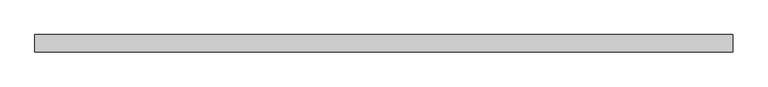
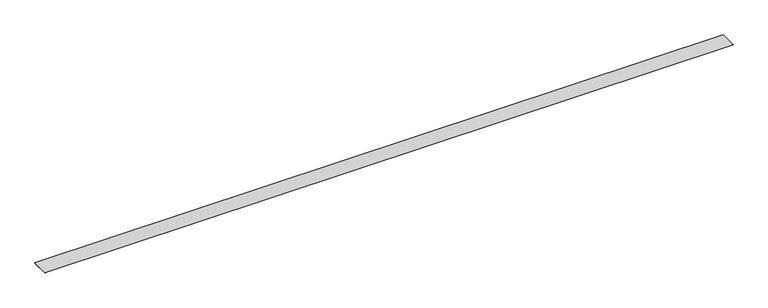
"""IFC4 building model written with IfcOpenShell, lengths in millimetres: proxy geometry, Sika® CarboDur® M914 : Sika® CarboDur® S1012."""

from ifc_helpers import new_model, si_unit, origin, origin_with_axes, place, context, project, spatial, polyline, outline, extrude, source, transform, mapped, element, save


def generic_models_0ae8aa6c(model_context):
    return source(origin(), model_context, "Body", "SweptSolid", [
        extrude(outline(polyline([(2011.6805461, -50.0), (-2011.6805461, -50.0), (-2011.6805461, 50.0), (2011.6805461, 50.0), (2011.6805461, -50.0)])), origin_with_axes(), (0.0, 0.0, 1.0), 1.2),
    ])


if __name__ == "__main__":
    model = new_model("IFC4")
    model_context = context("Model", 3, world=origin())
    ifc_project = project(units=[si_unit("LENGTHUNIT", "METRE", prefix="MILLI")], contexts=[model_context])
    site = spatial("IfcSite", under=ifc_project)
    building = spatial("IfcBuilding", under=site)
    placement = place(None, origin())
    generic_models_shape = generic_models_0ae8aa6c(model_context)
    element("IfcBuildingElementProxy", 1, Name="Sika® CarboDur® M914 : Sika® CarboDur® S1012", ObjectType="Sika® CarboDur® M914 : Sika® CarboDur® S1012", at=placement, inside=building, context=model_context, shape_type="MappedRepresentation", body=[
        mapped(generic_models_shape, transform((0.0, 0.0, 0.0), x_axis=(1.0, 0.0, 0.0), y_axis=(0.0, 1.0, 0.0), z_axis=(0.0, 0.0, 1.0))),
    ])
    save(model, "model.ifc")
